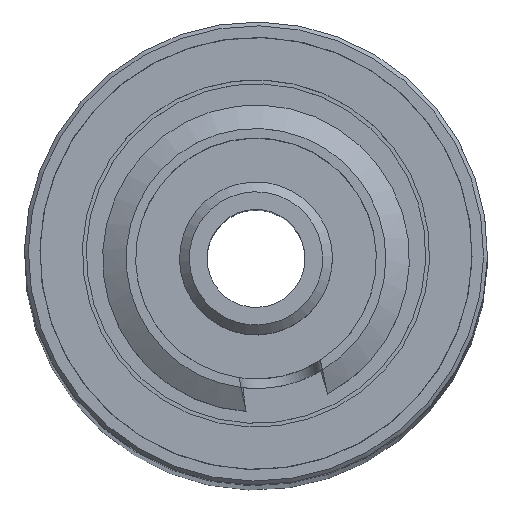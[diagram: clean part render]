
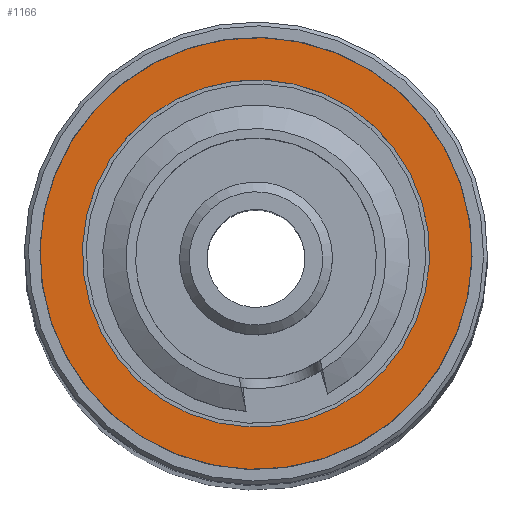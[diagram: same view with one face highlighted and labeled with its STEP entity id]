
A CAD part, top view. The second image highlights one B-rep face of the part: STEP entity #1166.
In plain terms, the highlighted planar face has unit normal (0, 0, 1) as drawn and (0, 1, 0) by its records, which use the part's own axes.
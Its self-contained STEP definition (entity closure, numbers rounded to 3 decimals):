
#161=PLANE('',#1418);
#241=FACE_BOUND('',#442,.T.);
#321=FACE_OUTER_BOUND('',#441,.T.);
#441=EDGE_LOOP('',(#1055));
#442=EDGE_LOOP('',(#1056));
#519=CIRCLE('',#1409,5.6);
#523=CIRCLE('',#1416,4.5);
#631=VERTEX_POINT('',#2294);
#635=VERTEX_POINT('',#2305);
#774=EDGE_CURVE('',#631,#631,#519,.T.);
#778=EDGE_CURVE('',#635,#635,#523,.T.);
#1055=ORIENTED_EDGE('',*,*,#774,.T.);
#1056=ORIENTED_EDGE('',*,*,#778,.T.);
#1166=ADVANCED_FACE('',(#321,#241),#161,.T.);
#1409=AXIS2_PLACEMENT_3D('',#2295,#1736,#1737);
#1416=AXIS2_PLACEMENT_3D('',#2306,#1750,#1751);
#1418=AXIS2_PLACEMENT_3D('',#2308,#1754,#1755);
#1736=DIRECTION('center_axis',(0.,1.,0.));
#1737=DIRECTION('ref_axis',(1.,0.,0.));
#1750=DIRECTION('center_axis',(0.,-1.,0.));
#1751=DIRECTION('ref_axis',(-1.,0.,0.));
#1754=DIRECTION('center_axis',(0.,1.,0.));
#1755=DIRECTION('ref_axis',(0.,0.,1.));
#2294=CARTESIAN_POINT('',(-5.6,1.8,0.));
#2295=CARTESIAN_POINT('Origin',(0.,1.8,0.));
#2305=CARTESIAN_POINT('',(4.5,1.8,0.));
#2306=CARTESIAN_POINT('Origin',(0.,1.8,0.));
#2308=CARTESIAN_POINT('Origin',(0.,1.8,0.));
